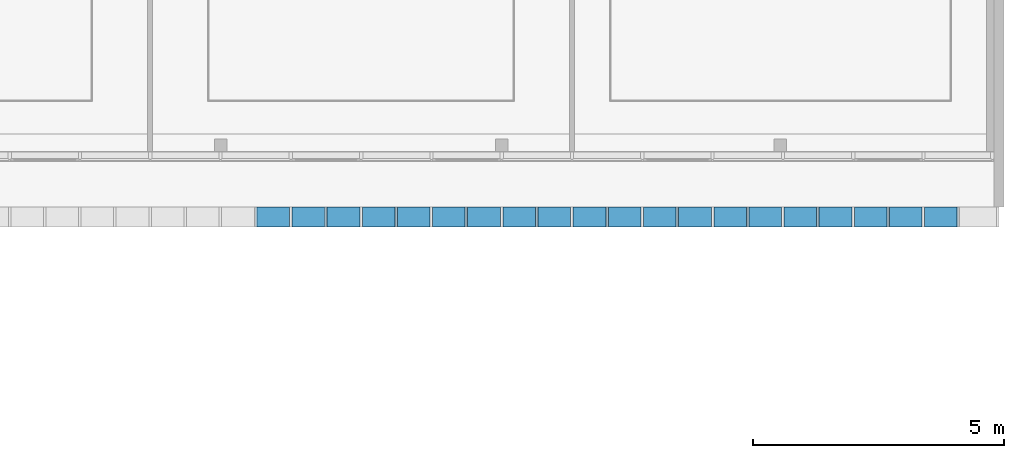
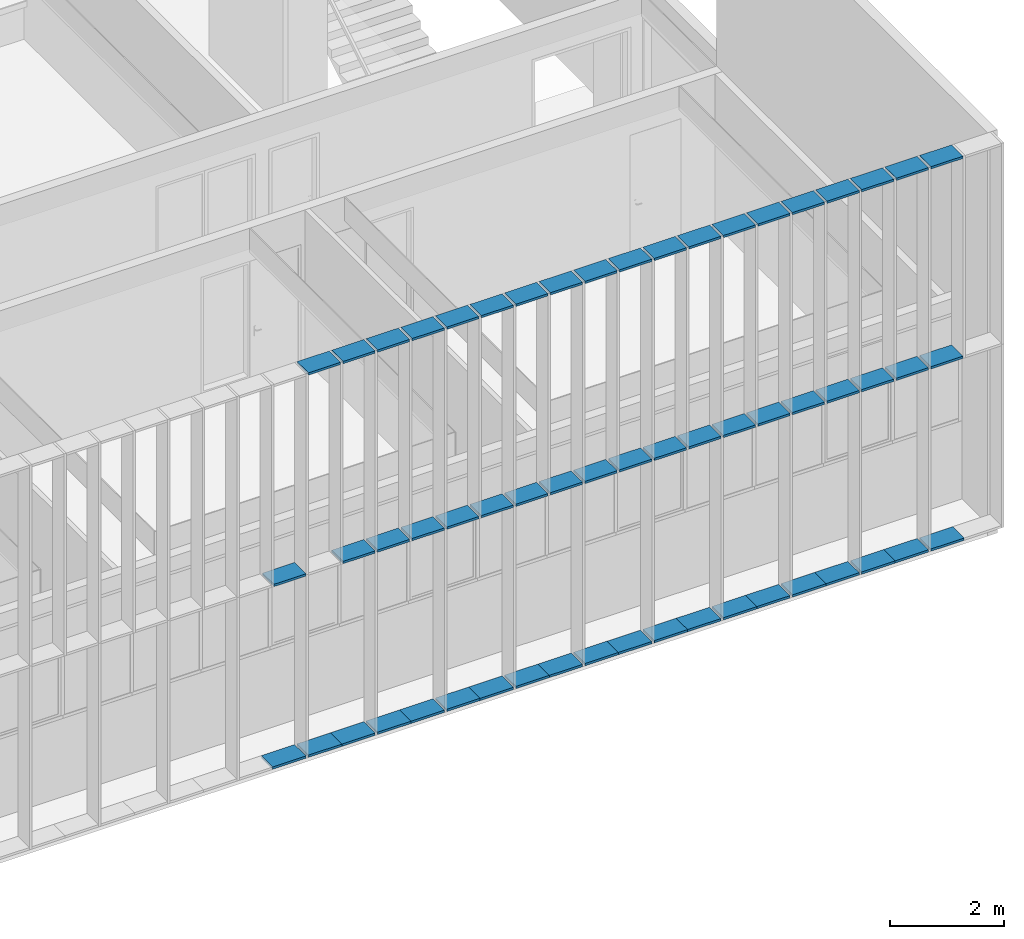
# One storey, part 25 of 106: 58 members, 1 element without a shape of its own.
"""IFC2X3 building model written with IfcOpenShell, lengths in centimetres."""

from ifc_helpers import new_model, entity, si_unit, converted_unit, derived_unit, direction, frame, origin, origin_2d_with_axis, place, context, subcontext, project, spatial, rectangle, extrude, source, transform, mapped, material, type_object, type_shapes, element, aggregate, save


model = new_model("IFC2X3")

# Units and contexts
model_context = context("Model", 3, precision=0.001, world=origin(), true_north=direction((6.12303176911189e-17, 1.0)))
body_context = subcontext(model_context, "Body", "Model", "MODEL_VIEW")
ifc_project = project(units=[si_unit("LENGTHUNIT", "METRE", prefix="CENTI"), si_unit("AREAUNIT", "SQUARE_METRE"), si_unit("VOLUMEUNIT", "CUBIC_METRE"), converted_unit("PLANEANGLEUNIT", "DEGREE", entity("IfcRatioMeasure", 0.0174532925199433), si_unit("PLANEANGLEUNIT", "RADIAN"), dimensions=[0, 0, 0, 0, 0, 0, 0]), si_unit("MASSUNIT", "GRAM", prefix="KILO"), derived_unit("MASSDENSITYUNIT", [(si_unit("MASSUNIT", "GRAM", prefix="KILO"), 1), (si_unit("LENGTHUNIT", "METRE"), -3)]), si_unit("TIMEUNIT", "SECOND"), si_unit("FREQUENCYUNIT", "HERTZ"), si_unit("THERMODYNAMICTEMPERATUREUNIT", "DEGREE_CELSIUS"), derived_unit("THERMALTRANSMITTANCEUNIT", [(si_unit("MASSUNIT", "GRAM", prefix="KILO"), 1), (si_unit("THERMODYNAMICTEMPERATUREUNIT", "KELVIN"), -1), (si_unit("TIMEUNIT", "SECOND"), -3)]), derived_unit("VOLUMETRICFLOWRATEUNIT", [(si_unit("LENGTHUNIT", "METRE"), 3), (si_unit("TIMEUNIT", "SECOND"), -1)]), si_unit("ELECTRICCURRENTUNIT", "AMPERE"), si_unit("ELECTRICVOLTAGEUNIT", "VOLT"), si_unit("POWERUNIT", "WATT"), si_unit("FORCEUNIT", "NEWTON", prefix="KILO"), si_unit("ILLUMINANCEUNIT", "LUX"), si_unit("LUMINOUSFLUXUNIT", "LUMEN"), si_unit("LUMINOUSINTENSITYUNIT", "CANDELA"), derived_unit("USERDEFINED", [(si_unit("MASSUNIT", "GRAM", prefix="KILO"), -1), (si_unit("LENGTHUNIT", "METRE"), -2), (si_unit("TIMEUNIT", "SECOND"), 3), (si_unit("LUMINOUSFLUXUNIT", "LUMEN"), 1)]), derived_unit("LINEARVELOCITYUNIT", [(si_unit("LENGTHUNIT", "METRE"), 1), (si_unit("TIMEUNIT", "SECOND"), -1)]), si_unit("PRESSUREUNIT", "PASCAL"), derived_unit("USERDEFINED", [(si_unit("LENGTHUNIT", "METRE"), -2), (si_unit("MASSUNIT", "GRAM", prefix="KILO"), 1), (si_unit("TIMEUNIT", "SECOND"), -2)])], contexts=[model_context])

# Site, building, storey
site_placement = place(None, frame((-2781.94577612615, 7442.24238424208, 0.0)))
site = spatial("IfcSite", under=ifc_project, at=site_placement, Name="Default", CompositionType="ELEMENT")
building_placement = place(site_placement, origin())
building = spatial("IfcBuilding", under=site, at=building_placement, CompositionType="ELEMENT")
storey_placement = place(building_placement, frame((0.0, 0.0, 422.0)))
storey = spatial("IfcBuildingStorey", under=building, at=storey_placement, Name="Toiture - Cuisine", CompositionType="ELEMENT", Elevation=421.999999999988)

# Curtain wall, members
curtain_wall_type = type_object("IfcCurtainWallType", Name="Mur-rideau:Epines - 400x30mm", PredefinedType="NOTDEFINED")
curtain_wall_placement = place(building_placement, origin())
curtain_wall = element("IfcCurtainWall", 1, at=curtain_wall_placement, inside=storey, type_object=curtain_wall_type, Name="Mur-rideau:Epines - 400x30mm", ObjectType="Mur-rideau:Epines - 400x30mm")
ifc_material = material(Name="Aluminium")
member_type_1 = type_object("IfcMemberType", Name="Epine sud (400x50 mm)", PredefinedType="MEMBER")
shared_shape_1 = source(origin(), body_context, "Body", "SweptSolid", [
    extrude(rectangle(XDim=40.0, YDim=5.0, at=origin_2d_with_axis()), frame((-2.5, 0.0, -65.0), z_axis=(0.0, 0.0, 1.0), x_axis=(0.0, -1.0, 0.0)), (0.0, 0.0, 1.0), 64.9999999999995),
])
type_shapes(member_type_1, [shared_shape_1])
member_1_placement = place(building_placement, frame((-1672.99987760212, -3160.31349958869, 1176.0), z_axis=(1.0, 0.0, 0.0), x_axis=(0.0, 0.0, 1.0)))
member_1 = element("IfcMember", 2, at=member_1_placement, type_object=member_type_1, material=ifc_material, Name="Meneau rectangulaire:Epine sud (400x50 mm)", ObjectType="Meneau rectangulaire:Epine sud (400x50 mm)", context=body_context, shape_type="MappedRepresentation", body=[
    mapped(shared_shape_1, transform((0.0, 0.0, 0.0), scale=1.0)),
])
member_2_placement = place(building_placement, frame((-1532.99987760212, -3160.31349958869, 1176.0), z_axis=(1.0, 0.0, 0.0), x_axis=(0.0, 0.0, 1.0)))
member_2 = element("IfcMember", 3, at=member_2_placement, type_object=member_type_1, material=ifc_material, Name="Meneau rectangulaire:Epine sud (400x50 mm)", ObjectType="Meneau rectangulaire:Epine sud (400x50 mm)", context=body_context, shape_type="MappedRepresentation", body=[
    mapped(shared_shape_1, transform((0.0, 0.0, 0.0), scale=1.0)),
])
member_3_placement = place(building_placement, frame((-1392.99987760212, -3160.31349958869, 1176.0), z_axis=(1.0, 0.0, 0.0), x_axis=(0.0, 0.0, 1.0)))
member_3 = element("IfcMember", 4, at=member_3_placement, type_object=member_type_1, material=ifc_material, Name="Meneau rectangulaire:Epine sud (400x50 mm)", ObjectType="Meneau rectangulaire:Epine sud (400x50 mm)", context=body_context, shape_type="MappedRepresentation", body=[
    mapped(shared_shape_1, transform((0.0, 0.0, 0.0), scale=1.0)),
])
member_4_placement = place(building_placement, frame((-1252.99987760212, -3160.31349958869, 1176.0), z_axis=(1.0, 0.0, 0.0), x_axis=(0.0, 0.0, 1.0)))
member_4 = element("IfcMember", 5, at=member_4_placement, type_object=member_type_1, material=ifc_material, Name="Meneau rectangulaire:Epine sud (400x50 mm)", ObjectType="Meneau rectangulaire:Epine sud (400x50 mm)", context=body_context, shape_type="MappedRepresentation", body=[
    mapped(shared_shape_1, transform((0.0, 0.0, 0.0), scale=1.0)),
])
member_5_placement = place(building_placement, frame((-1112.99987760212, -3160.31349958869, 1176.0), z_axis=(1.0, 0.0, 0.0), x_axis=(0.0, 0.0, 1.0)))
member_5 = element("IfcMember", 6, at=member_5_placement, type_object=member_type_1, material=ifc_material, Name="Meneau rectangulaire:Epine sud (400x50 mm)", ObjectType="Meneau rectangulaire:Epine sud (400x50 mm)", context=body_context, shape_type="MappedRepresentation", body=[
    mapped(shared_shape_1, transform((0.0, 0.0, 0.0), scale=1.0)),
])
member_6_placement = place(building_placement, frame((-972.999877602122, -3160.31349958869, 1176.0), z_axis=(1.0, 0.0, 0.0), x_axis=(0.0, 0.0, 1.0)))
member_6 = element("IfcMember", 7, at=member_6_placement, type_object=member_type_1, material=ifc_material, Name="Meneau rectangulaire:Epine sud (400x50 mm)", ObjectType="Meneau rectangulaire:Epine sud (400x50 mm)", context=body_context, shape_type="MappedRepresentation", body=[
    mapped(shared_shape_1, transform((0.0, 0.0, 0.0), scale=1.0)),
])
member_7_placement = place(building_placement, frame((-832.999877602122, -3160.31349958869, 1176.0), z_axis=(1.0, 0.0, 0.0), x_axis=(0.0, 0.0, 1.0)))
member_7 = element("IfcMember", 8, at=member_7_placement, type_object=member_type_1, material=ifc_material, Name="Meneau rectangulaire:Epine sud (400x50 mm)", ObjectType="Meneau rectangulaire:Epine sud (400x50 mm)", context=body_context, shape_type="MappedRepresentation", body=[
    mapped(shared_shape_1, transform((0.0, 0.0, 0.0), scale=1.0)),
])
member_8_placement = place(building_placement, frame((-692.999877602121, -3160.31349958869, 1176.0), z_axis=(1.0, 0.0, 0.0), x_axis=(0.0, 0.0, 1.0)))
member_8 = element("IfcMember", 9, at=member_8_placement, type_object=member_type_1, material=ifc_material, Name="Meneau rectangulaire:Epine sud (400x50 mm)", ObjectType="Meneau rectangulaire:Epine sud (400x50 mm)", context=body_context, shape_type="MappedRepresentation", body=[
    mapped(shared_shape_1, transform((0.0, 0.0, 0.0), scale=1.0)),
])
member_9_placement = place(building_placement, frame((-552.999877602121, -3160.31349958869, 1176.0), z_axis=(1.0, 0.0, 0.0), x_axis=(0.0, 0.0, 1.0)))
member_9 = element("IfcMember", 10, at=member_9_placement, type_object=member_type_1, material=ifc_material, Name="Meneau rectangulaire:Epine sud (400x50 mm)", ObjectType="Meneau rectangulaire:Epine sud (400x50 mm)", context=body_context, shape_type="MappedRepresentation", body=[
    mapped(shared_shape_1, transform((0.0, 0.0, 0.0), scale=1.0)),
])
member_10_placement = place(building_placement, frame((-1742.99987760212, -3160.31349958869, 1176.0), z_axis=(1.0, 0.0, 0.0), x_axis=(0.0, 0.0, 1.0)))
member_10 = element("IfcMember", 11, at=member_10_placement, type_object=member_type_1, material=ifc_material, Name="Meneau rectangulaire:Epine sud (400x50 mm)", ObjectType="Meneau rectangulaire:Epine sud (400x50 mm)", context=body_context, shape_type="MappedRepresentation", body=[
    mapped(shared_shape_1, transform((0.0, 0.0, 0.0), scale=1.0)),
])
member_11_placement = place(building_placement, frame((-1602.99987760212, -3160.31349958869, 1176.0), z_axis=(1.0, 0.0, 0.0), x_axis=(0.0, 0.0, 1.0)))
member_11 = element("IfcMember", 12, at=member_11_placement, type_object=member_type_1, material=ifc_material, Name="Meneau rectangulaire:Epine sud (400x50 mm)", ObjectType="Meneau rectangulaire:Epine sud (400x50 mm)", context=body_context, shape_type="MappedRepresentation", body=[
    mapped(shared_shape_1, transform((0.0, 0.0, 0.0), scale=1.0)),
])
member_12_placement = place(building_placement, frame((-1462.99987760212, -3160.31349958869, 1176.0), z_axis=(1.0, 0.0, 0.0), x_axis=(0.0, 0.0, 1.0)))
member_12 = element("IfcMember", 13, at=member_12_placement, type_object=member_type_1, material=ifc_material, Name="Meneau rectangulaire:Epine sud (400x50 mm)", ObjectType="Meneau rectangulaire:Epine sud (400x50 mm)", context=body_context, shape_type="MappedRepresentation", body=[
    mapped(shared_shape_1, transform((0.0, 0.0, 0.0), scale=1.0)),
])
member_13_placement = place(building_placement, frame((-1322.99987760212, -3160.31349958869, 1176.0), z_axis=(1.0, 0.0, 0.0), x_axis=(0.0, 0.0, 1.0)))
member_13 = element("IfcMember", 14, at=member_13_placement, type_object=member_type_1, material=ifc_material, Name="Meneau rectangulaire:Epine sud (400x50 mm)", ObjectType="Meneau rectangulaire:Epine sud (400x50 mm)", context=body_context, shape_type="MappedRepresentation", body=[
    mapped(shared_shape_1, transform((0.0, 0.0, 0.0), scale=1.0)),
])
member_14_placement = place(building_placement, frame((-1182.99987760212, -3160.31349958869, 1176.0), z_axis=(1.0, 0.0, 0.0), x_axis=(0.0, 0.0, 1.0)))
member_14 = element("IfcMember", 15, at=member_14_placement, type_object=member_type_1, material=ifc_material, Name="Meneau rectangulaire:Epine sud (400x50 mm)", ObjectType="Meneau rectangulaire:Epine sud (400x50 mm)", context=body_context, shape_type="MappedRepresentation", body=[
    mapped(shared_shape_1, transform((0.0, 0.0, 0.0), scale=1.0)),
])
member_15_placement = place(building_placement, frame((-1042.99987760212, -3160.31349958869, 1176.0), z_axis=(1.0, 0.0, 0.0), x_axis=(0.0, 0.0, 1.0)))
member_15 = element("IfcMember", 16, at=member_15_placement, type_object=member_type_1, material=ifc_material, Name="Meneau rectangulaire:Epine sud (400x50 mm)", ObjectType="Meneau rectangulaire:Epine sud (400x50 mm)", context=body_context, shape_type="MappedRepresentation", body=[
    mapped(shared_shape_1, transform((0.0, 0.0, 0.0), scale=1.0)),
])
member_16_placement = place(building_placement, frame((-902.999877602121, -3160.31349958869, 1176.0), z_axis=(1.0, 0.0, 0.0), x_axis=(0.0, 0.0, 1.0)))
member_16 = element("IfcMember", 17, at=member_16_placement, type_object=member_type_1, material=ifc_material, Name="Meneau rectangulaire:Epine sud (400x50 mm)", ObjectType="Meneau rectangulaire:Epine sud (400x50 mm)", context=body_context, shape_type="MappedRepresentation", body=[
    mapped(shared_shape_1, transform((0.0, 0.0, 0.0), scale=1.0)),
])
member_17_placement = place(building_placement, frame((-762.999877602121, -3160.31349958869, 1176.0), z_axis=(1.0, 0.0, 0.0), x_axis=(0.0, 0.0, 1.0)))
member_17 = element("IfcMember", 18, at=member_17_placement, type_object=member_type_1, material=ifc_material, Name="Meneau rectangulaire:Epine sud (400x50 mm)", ObjectType="Meneau rectangulaire:Epine sud (400x50 mm)", context=body_context, shape_type="MappedRepresentation", body=[
    mapped(shared_shape_1, transform((0.0, 0.0, 0.0), scale=1.0)),
])
member_18_placement = place(building_placement, frame((-622.999877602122, -3160.31349958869, 1176.0), z_axis=(1.0, 0.0, 0.0), x_axis=(0.0, 0.0, 1.0)))
member_18 = element("IfcMember", 19, at=member_18_placement, type_object=member_type_1, material=ifc_material, Name="Meneau rectangulaire:Epine sud (400x50 mm)", ObjectType="Meneau rectangulaire:Epine sud (400x50 mm)", context=body_context, shape_type="MappedRepresentation", body=[
    mapped(shared_shape_1, transform((0.0, 0.0, 0.0), scale=1.0)),
])
member_type_2 = type_object("IfcMemberType", Name="Epine sud (400x50 mm)", PredefinedType="MEMBER")
shared_shape_2 = source(origin(), body_context, "Body", "SweptSolid", [
    extrude(rectangle(XDim=40.0, YDim=5.0, at=origin_2d_with_axis()), frame((-2.5, 0.0, -67.4999999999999), z_axis=(0.0, 0.0, 1.0), x_axis=(0.0, -1.0, 0.0)), (0.0, 0.0, 1.0), 67.5000000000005),
])
type_shapes(member_type_2, [shared_shape_2])
member_19_placement = place(building_placement, frame((-1807.99987760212, -3160.31349958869, 353.0), z_axis=(-1.0, 0.0, 0.0), x_axis=(0.0, 0.0, -1.0)))
member_19 = element("IfcMember", 20, at=member_19_placement, type_object=member_type_2, material=ifc_material, Name="Meneau rectangulaire:Epine sud (400x50 mm)", ObjectType="Meneau rectangulaire:Epine sud (400x50 mm)", context=body_context, shape_type="MappedRepresentation", body=[
    mapped(shared_shape_2, transform((0.0, 0.0, 0.0), scale=1.0)),
])
member_20_placement = place(building_placement, frame((-1667.99987760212, -3160.31349958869, 353.0), z_axis=(-1.0, 0.0, 0.0), x_axis=(0.0, 0.0, -1.0)))
member_20 = element("IfcMember", 21, at=member_20_placement, type_object=member_type_2, material=ifc_material, Name="Meneau rectangulaire:Epine sud (400x50 mm)", ObjectType="Meneau rectangulaire:Epine sud (400x50 mm)", context=body_context, shape_type="MappedRepresentation", body=[
    mapped(shared_shape_2, transform((0.0, 0.0, 0.0), scale=1.0)),
])
member_21_placement = place(building_placement, frame((-1527.99987760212, -3160.31349958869, 353.0), z_axis=(-1.0, 0.0, 0.0), x_axis=(0.0, 0.0, -1.0)))
member_21 = element("IfcMember", 22, at=member_21_placement, type_object=member_type_2, material=ifc_material, Name="Meneau rectangulaire:Epine sud (400x50 mm)", ObjectType="Meneau rectangulaire:Epine sud (400x50 mm)", context=body_context, shape_type="MappedRepresentation", body=[
    mapped(shared_shape_2, transform((0.0, 0.0, 0.0), scale=1.0)),
])
member_22_placement = place(building_placement, frame((-1387.99987760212, -3160.31349958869, 353.0), z_axis=(-1.0, 0.0, 0.0), x_axis=(0.0, 0.0, -1.0)))
member_22 = element("IfcMember", 23, at=member_22_placement, type_object=member_type_2, material=ifc_material, Name="Meneau rectangulaire:Epine sud (400x50 mm)", ObjectType="Meneau rectangulaire:Epine sud (400x50 mm)", context=body_context, shape_type="MappedRepresentation", body=[
    mapped(shared_shape_2, transform((0.0, 0.0, 0.0), scale=1.0)),
])
member_23_placement = place(building_placement, frame((-1247.99987760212, -3160.31349958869, 353.0), z_axis=(-1.0, 0.0, 0.0), x_axis=(0.0, 0.0, -1.0)))
member_23 = element("IfcMember", 24, at=member_23_placement, type_object=member_type_2, material=ifc_material, Name="Meneau rectangulaire:Epine sud (400x50 mm)", ObjectType="Meneau rectangulaire:Epine sud (400x50 mm)", context=body_context, shape_type="MappedRepresentation", body=[
    mapped(shared_shape_2, transform((0.0, 0.0, 0.0), scale=1.0)),
])
member_24_placement = place(building_placement, frame((-1107.99987760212, -3160.31349958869, 353.0), z_axis=(-1.0, 0.0, 0.0), x_axis=(0.0, 0.0, -1.0)))
member_24 = element("IfcMember", 25, at=member_24_placement, type_object=member_type_2, material=ifc_material, Name="Meneau rectangulaire:Epine sud (400x50 mm)", ObjectType="Meneau rectangulaire:Epine sud (400x50 mm)", context=body_context, shape_type="MappedRepresentation", body=[
    mapped(shared_shape_2, transform((0.0, 0.0, 0.0), scale=1.0)),
])
member_25_placement = place(building_placement, frame((-967.999877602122, -3160.31349958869, 353.0), z_axis=(-1.0, 0.0, 0.0), x_axis=(0.0, 0.0, -1.0)))
member_25 = element("IfcMember", 26, at=member_25_placement, type_object=member_type_2, material=ifc_material, Name="Meneau rectangulaire:Epine sud (400x50 mm)", ObjectType="Meneau rectangulaire:Epine sud (400x50 mm)", context=body_context, shape_type="MappedRepresentation", body=[
    mapped(shared_shape_2, transform((0.0, 0.0, 0.0), scale=1.0)),
])
member_26_placement = place(building_placement, frame((-827.999877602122, -3160.31349958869, 353.0), z_axis=(-1.0, 0.0, 0.0), x_axis=(0.0, 0.0, -1.0)))
member_26 = element("IfcMember", 27, at=member_26_placement, type_object=member_type_2, material=ifc_material, Name="Meneau rectangulaire:Epine sud (400x50 mm)", ObjectType="Meneau rectangulaire:Epine sud (400x50 mm)", context=body_context, shape_type="MappedRepresentation", body=[
    mapped(shared_shape_2, transform((0.0, 0.0, 0.0), scale=1.0)),
])
member_27_placement = place(building_placement, frame((-687.999877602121, -3160.31349958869, 353.0), z_axis=(-1.0, 0.0, 0.0), x_axis=(0.0, 0.0, -1.0)))
member_27 = element("IfcMember", 28, at=member_27_placement, type_object=member_type_2, material=ifc_material, Name="Meneau rectangulaire:Epine sud (400x50 mm)", ObjectType="Meneau rectangulaire:Epine sud (400x50 mm)", context=body_context, shape_type="MappedRepresentation", body=[
    mapped(shared_shape_2, transform((0.0, 0.0, 0.0), scale=1.0)),
])
member_type_3 = type_object("IfcMemberType", Name="Epine sud (400x50 mm)", PredefinedType="MEMBER")
shared_shape_3 = source(origin(), body_context, "Body", "SweptSolid", [
    extrude(rectangle(XDim=40.0, YDim=5.0, at=origin_2d_with_axis()), frame((0.0, 0.0, -65.0), z_axis=(0.0, 0.0, 1.0), x_axis=(0.0, -1.0, 0.0)), (0.0, 0.0, 1.0), 65.0000000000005),
])
type_shapes(member_type_3, [shared_shape_3])
member_28_placement = place(building_placement, frame((-1602.99987760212, -3160.31349958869, 745.5), z_axis=(1.0, 0.0, 0.0), x_axis=(0.0, 0.0, 1.0)))
member_28 = element("IfcMember", 29, at=member_28_placement, type_object=member_type_3, material=ifc_material, Name="Meneau rectangulaire:Epine sud (400x50 mm)", ObjectType="Meneau rectangulaire:Epine sud (400x50 mm)", context=body_context, shape_type="MappedRepresentation", body=[
    mapped(shared_shape_3, transform((0.0, 0.0, 0.0), scale=1.0)),
])
member_29_placement = place(building_placement, frame((-1462.99987760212, -3160.31349958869, 745.5), z_axis=(1.0, 0.0, 0.0), x_axis=(0.0, 0.0, 1.0)))
member_29 = element("IfcMember", 30, at=member_29_placement, type_object=member_type_3, material=ifc_material, Name="Meneau rectangulaire:Epine sud (400x50 mm)", ObjectType="Meneau rectangulaire:Epine sud (400x50 mm)", context=body_context, shape_type="MappedRepresentation", body=[
    mapped(shared_shape_3, transform((0.0, 0.0, 0.0), scale=1.0)),
])
member_30_placement = place(building_placement, frame((-1322.99987760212, -3160.31349958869, 745.5), z_axis=(1.0, 0.0, 0.0), x_axis=(0.0, 0.0, 1.0)))
member_30 = element("IfcMember", 31, at=member_30_placement, type_object=member_type_3, material=ifc_material, Name="Meneau rectangulaire:Epine sud (400x50 mm)", ObjectType="Meneau rectangulaire:Epine sud (400x50 mm)", context=body_context, shape_type="MappedRepresentation", body=[
    mapped(shared_shape_3, transform((0.0, 0.0, 0.0), scale=1.0)),
])
member_31_placement = place(building_placement, frame((-1182.99987760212, -3160.31349958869, 745.5), z_axis=(1.0, 0.0, 0.0), x_axis=(0.0, 0.0, 1.0)))
member_31 = element("IfcMember", 32, at=member_31_placement, type_object=member_type_3, material=ifc_material, Name="Meneau rectangulaire:Epine sud (400x50 mm)", ObjectType="Meneau rectangulaire:Epine sud (400x50 mm)", context=body_context, shape_type="MappedRepresentation", body=[
    mapped(shared_shape_3, transform((0.0, 0.0, 0.0), scale=1.0)),
])
member_32_placement = place(building_placement, frame((-1042.99987760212, -3160.31349958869, 745.5), z_axis=(1.0, 0.0, 0.0), x_axis=(0.0, 0.0, 1.0)))
member_32 = element("IfcMember", 33, at=member_32_placement, type_object=member_type_3, material=ifc_material, Name="Meneau rectangulaire:Epine sud (400x50 mm)", ObjectType="Meneau rectangulaire:Epine sud (400x50 mm)", context=body_context, shape_type="MappedRepresentation", body=[
    mapped(shared_shape_3, transform((0.0, 0.0, 0.0), scale=1.0)),
])
member_33_placement = place(building_placement, frame((-902.999877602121, -3160.31349958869, 745.5), z_axis=(1.0, 0.0, 0.0), x_axis=(0.0, 0.0, 1.0)))
member_33 = element("IfcMember", 34, at=member_33_placement, type_object=member_type_3, material=ifc_material, Name="Meneau rectangulaire:Epine sud (400x50 mm)", ObjectType="Meneau rectangulaire:Epine sud (400x50 mm)", context=body_context, shape_type="MappedRepresentation", body=[
    mapped(shared_shape_3, transform((0.0, 0.0, 0.0), scale=1.0)),
])
member_34_placement = place(building_placement, frame((-762.999877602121, -3160.31349958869, 745.5), z_axis=(1.0, 0.0, 0.0), x_axis=(0.0, 0.0, 1.0)))
member_34 = element("IfcMember", 35, at=member_34_placement, type_object=member_type_3, material=ifc_material, Name="Meneau rectangulaire:Epine sud (400x50 mm)", ObjectType="Meneau rectangulaire:Epine sud (400x50 mm)", context=body_context, shape_type="MappedRepresentation", body=[
    mapped(shared_shape_3, transform((0.0, 0.0, 0.0), scale=1.0)),
])
member_35_placement = place(building_placement, frame((-622.999877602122, -3160.31349958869, 745.5), z_axis=(1.0, 0.0, 0.0), x_axis=(0.0, 0.0, 1.0)))
member_35 = element("IfcMember", 36, at=member_35_placement, type_object=member_type_3, material=ifc_material, Name="Meneau rectangulaire:Epine sud (400x50 mm)", ObjectType="Meneau rectangulaire:Epine sud (400x50 mm)", context=body_context, shape_type="MappedRepresentation", body=[
    mapped(shared_shape_3, transform((0.0, 0.0, 0.0), scale=1.0)),
])
member_36_placement = place(building_placement, frame((-1812.99987760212, -3160.31349958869, 745.5), z_axis=(1.0, 0.0, 0.0), x_axis=(0.0, 0.0, 1.0)))
member_36 = element("IfcMember", 37, at=member_36_placement, type_object=member_type_3, material=ifc_material, Name="Meneau rectangulaire:Epine sud (400x50 mm)", ObjectType="Meneau rectangulaire:Epine sud (400x50 mm)", context=body_context, shape_type="MappedRepresentation", body=[
    mapped(shared_shape_3, transform((0.0, 0.0, 0.0), scale=1.0)),
])
member_37_placement = place(building_placement, frame((-1672.99987760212, -3160.31349958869, 745.5), z_axis=(1.0, 0.0, 0.0), x_axis=(0.0, 0.0, 1.0)))
member_37 = element("IfcMember", 38, at=member_37_placement, type_object=member_type_3, material=ifc_material, Name="Meneau rectangulaire:Epine sud (400x50 mm)", ObjectType="Meneau rectangulaire:Epine sud (400x50 mm)", context=body_context, shape_type="MappedRepresentation", body=[
    mapped(shared_shape_3, transform((0.0, 0.0, 0.0), scale=1.0)),
])
member_38_placement = place(building_placement, frame((-1532.99987760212, -3160.31349958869, 745.5), z_axis=(1.0, 0.0, 0.0), x_axis=(0.0, 0.0, 1.0)))
member_38 = element("IfcMember", 39, at=member_38_placement, type_object=member_type_3, material=ifc_material, Name="Meneau rectangulaire:Epine sud (400x50 mm)", ObjectType="Meneau rectangulaire:Epine sud (400x50 mm)", context=body_context, shape_type="MappedRepresentation", body=[
    mapped(shared_shape_3, transform((0.0, 0.0, 0.0), scale=1.0)),
])
member_39_placement = place(building_placement, frame((-1392.99987760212, -3160.31349958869, 745.5), z_axis=(1.0, 0.0, 0.0), x_axis=(0.0, 0.0, 1.0)))
member_39 = element("IfcMember", 40, at=member_39_placement, type_object=member_type_3, material=ifc_material, Name="Meneau rectangulaire:Epine sud (400x50 mm)", ObjectType="Meneau rectangulaire:Epine sud (400x50 mm)", context=body_context, shape_type="MappedRepresentation", body=[
    mapped(shared_shape_3, transform((0.0, 0.0, 0.0), scale=1.0)),
])
member_40_placement = place(building_placement, frame((-1252.99987760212, -3160.31349958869, 745.5), z_axis=(1.0, 0.0, 0.0), x_axis=(0.0, 0.0, 1.0)))
member_40 = element("IfcMember", 41, at=member_40_placement, type_object=member_type_3, material=ifc_material, Name="Meneau rectangulaire:Epine sud (400x50 mm)", ObjectType="Meneau rectangulaire:Epine sud (400x50 mm)", context=body_context, shape_type="MappedRepresentation", body=[
    mapped(shared_shape_3, transform((0.0, 0.0, 0.0), scale=1.0)),
])
member_41_placement = place(building_placement, frame((-1112.99987760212, -3160.31349958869, 745.5), z_axis=(1.0, 0.0, 0.0), x_axis=(0.0, 0.0, 1.0)))
member_41 = element("IfcMember", 42, at=member_41_placement, type_object=member_type_3, material=ifc_material, Name="Meneau rectangulaire:Epine sud (400x50 mm)", ObjectType="Meneau rectangulaire:Epine sud (400x50 mm)", context=body_context, shape_type="MappedRepresentation", body=[
    mapped(shared_shape_3, transform((0.0, 0.0, 0.0), scale=1.0)),
])
member_42_placement = place(building_placement, frame((-972.999877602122, -3160.31349958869, 745.5), z_axis=(1.0, 0.0, 0.0), x_axis=(0.0, 0.0, 1.0)))
member_42 = element("IfcMember", 43, at=member_42_placement, type_object=member_type_3, material=ifc_material, Name="Meneau rectangulaire:Epine sud (400x50 mm)", ObjectType="Meneau rectangulaire:Epine sud (400x50 mm)", context=body_context, shape_type="MappedRepresentation", body=[
    mapped(shared_shape_3, transform((0.0, 0.0, 0.0), scale=1.0)),
])
member_43_placement = place(building_placement, frame((-832.999877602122, -3160.31349958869, 745.5), z_axis=(1.0, 0.0, 0.0), x_axis=(0.0, 0.0, 1.0)))
member_43 = element("IfcMember", 44, at=member_43_placement, type_object=member_type_3, material=ifc_material, Name="Meneau rectangulaire:Epine sud (400x50 mm)", ObjectType="Meneau rectangulaire:Epine sud (400x50 mm)", context=body_context, shape_type="MappedRepresentation", body=[
    mapped(shared_shape_3, transform((0.0, 0.0, 0.0), scale=1.0)),
])
member_44_placement = place(building_placement, frame((-692.999877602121, -3160.31349958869, 745.5), z_axis=(1.0, 0.0, 0.0), x_axis=(0.0, 0.0, 1.0)))
member_44 = element("IfcMember", 45, at=member_44_placement, type_object=member_type_3, material=ifc_material, Name="Meneau rectangulaire:Epine sud (400x50 mm)", ObjectType="Meneau rectangulaire:Epine sud (400x50 mm)", context=body_context, shape_type="MappedRepresentation", body=[
    mapped(shared_shape_3, transform((0.0, 0.0, 0.0), scale=1.0)),
])
member_45_placement = place(building_placement, frame((-552.99987760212, -3160.31349958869, 745.5), z_axis=(1.0, 0.0, 0.0), x_axis=(0.0, 0.0, 1.0)))
member_45 = element("IfcMember", 46, at=member_45_placement, type_object=member_type_3, material=ifc_material, Name="Meneau rectangulaire:Epine sud (400x50 mm)", ObjectType="Meneau rectangulaire:Epine sud (400x50 mm)", context=body_context, shape_type="MappedRepresentation", body=[
    mapped(shared_shape_3, transform((0.0, 0.0, 0.0), scale=1.0)),
])
member_type_4 = type_object("IfcMemberType", Name="Epine sud (400x50 mm)", PredefinedType="MEMBER")
shared_shape_4 = source(origin(), body_context, "Body", "SweptSolid", [
    extrude(rectangle(XDim=40.0, YDim=5.0, at=origin_2d_with_axis()), frame((-2.5, 0.0, -67.2499973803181), z_axis=(0.0, 0.0, 1.0), x_axis=(0.0, -1.0, 0.0)), (0.0, 0.0, 1.0), 67.2499973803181),
])
type_shapes(member_type_4, [shared_shape_4])
member_46_placement = place(building_placement, frame((-547.99987760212, -3160.31349958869, 353.0), z_axis=(-1.0, 0.0, 0.0), x_axis=(0.0, 0.0, -1.0)))
member_46 = element("IfcMember", 47, at=member_46_placement, type_object=member_type_4, material=ifc_material, Name="Meneau rectangulaire:Epine sud (400x50 mm)", ObjectType="Meneau rectangulaire:Epine sud (400x50 mm)", context=body_context, shape_type="MappedRepresentation", body=[
    mapped(shared_shape_4, transform((0.0, 0.0, 0.0), scale=1.0)),
])
member_type_5 = type_object("IfcMemberType", Name="Epine sud (400x50 mm)", PredefinedType="MEMBER")
shared_shape_5 = source(origin(), body_context, "Body", "SweptSolid", [
    extrude(rectangle(XDim=40.0, YDim=5.0, at=origin_2d_with_axis()), frame((0.0, 0.0, -64.7499973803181), z_axis=(0.0, 0.0, 1.0), x_axis=(0.0, -1.0, 0.0)), (0.0, 0.0, 1.0), 64.7499973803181),
])
type_shapes(member_type_5, [shared_shape_5])
member_47_placement = place(building_placement, frame((-483.249880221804, -3160.31349958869, 745.5), z_axis=(1.0, 0.0, 0.0), x_axis=(0.0, 0.0, 1.0)))
member_47 = element("IfcMember", 48, at=member_47_placement, type_object=member_type_5, material=ifc_material, Name="Meneau rectangulaire:Epine sud (400x50 mm)", ObjectType="Meneau rectangulaire:Epine sud (400x50 mm)", context=body_context, shape_type="MappedRepresentation", body=[
    mapped(shared_shape_5, transform((0.0, 0.0, 0.0), scale=1.0)),
])
member_type_6 = type_object("IfcMemberType", Name="Epine sud (400x50 mm)", PredefinedType="MEMBER")
shared_shape_6 = source(origin(), body_context, "Body", "SweptSolid", [
    extrude(rectangle(XDim=40.0, YDim=5.0, at=origin_2d_with_axis()), frame((-2.5, 0.0, -67.4999999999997), z_axis=(0.0, 0.0, 1.0), x_axis=(0.0, -1.0, 0.0)), (0.0, 0.0, 1.0), 67.4999999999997),
])
type_shapes(member_type_6, [shared_shape_6])
member_48_placement = place(building_placement, frame((-1880.49987760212, -3160.31349958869, 353.0), z_axis=(-1.0, 0.0, 0.0), x_axis=(0.0, 0.0, -1.0)))
member_48 = element("IfcMember", 49, at=member_48_placement, type_object=member_type_6, material=ifc_material, Name="Meneau rectangulaire:Epine sud (400x50 mm)", ObjectType="Meneau rectangulaire:Epine sud (400x50 mm)", context=body_context, shape_type="MappedRepresentation", body=[
    mapped(shared_shape_6, transform((0.0, 0.0, 0.0), scale=1.0)),
])
member_49_placement = place(building_placement, frame((-1740.49987760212, -3160.31349958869, 353.0), z_axis=(-1.0, 0.0, 0.0), x_axis=(0.0, 0.0, -1.0)))
member_49 = element("IfcMember", 50, at=member_49_placement, type_object=member_type_6, material=ifc_material, Name="Meneau rectangulaire:Epine sud (400x50 mm)", ObjectType="Meneau rectangulaire:Epine sud (400x50 mm)", context=body_context, shape_type="MappedRepresentation", body=[
    mapped(shared_shape_6, transform((0.0, 0.0, 0.0), scale=1.0)),
])
member_50_placement = place(building_placement, frame((-1600.49987760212, -3160.31349958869, 353.0), z_axis=(-1.0, 0.0, 0.0), x_axis=(0.0, 0.0, -1.0)))
member_50 = element("IfcMember", 51, at=member_50_placement, type_object=member_type_6, material=ifc_material, Name="Meneau rectangulaire:Epine sud (400x50 mm)", ObjectType="Meneau rectangulaire:Epine sud (400x50 mm)", context=body_context, shape_type="MappedRepresentation", body=[
    mapped(shared_shape_6, transform((0.0, 0.0, 0.0), scale=1.0)),
])
member_51_placement = place(building_placement, frame((-1460.49987760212, -3160.31349958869, 353.0), z_axis=(-1.0, 0.0, 0.0), x_axis=(0.0, 0.0, -1.0)))
member_51 = element("IfcMember", 52, at=member_51_placement, type_object=member_type_6, material=ifc_material, Name="Meneau rectangulaire:Epine sud (400x50 mm)", ObjectType="Meneau rectangulaire:Epine sud (400x50 mm)", context=body_context, shape_type="MappedRepresentation", body=[
    mapped(shared_shape_6, transform((0.0, 0.0, 0.0), scale=1.0)),
])
member_52_placement = place(building_placement, frame((-1320.49987760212, -3160.31349958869, 353.0), z_axis=(-1.0, 0.0, 0.0), x_axis=(0.0, 0.0, -1.0)))
member_52 = element("IfcMember", 53, at=member_52_placement, type_object=member_type_6, material=ifc_material, Name="Meneau rectangulaire:Epine sud (400x50 mm)", ObjectType="Meneau rectangulaire:Epine sud (400x50 mm)", context=body_context, shape_type="MappedRepresentation", body=[
    mapped(shared_shape_6, transform((0.0, 0.0, 0.0), scale=1.0)),
])
member_53_placement = place(building_placement, frame((-1180.49987760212, -3160.31349958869, 353.0), z_axis=(-1.0, 0.0, 0.0), x_axis=(0.0, 0.0, -1.0)))
member_53 = element("IfcMember", 54, at=member_53_placement, type_object=member_type_6, material=ifc_material, Name="Meneau rectangulaire:Epine sud (400x50 mm)", ObjectType="Meneau rectangulaire:Epine sud (400x50 mm)", context=body_context, shape_type="MappedRepresentation", body=[
    mapped(shared_shape_6, transform((0.0, 0.0, 0.0), scale=1.0)),
])
member_54_placement = place(building_placement, frame((-1040.49987760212, -3160.31349958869, 353.0), z_axis=(-1.0, 0.0, 0.0), x_axis=(0.0, 0.0, -1.0)))
member_54 = element("IfcMember", 55, at=member_54_placement, type_object=member_type_6, material=ifc_material, Name="Meneau rectangulaire:Epine sud (400x50 mm)", ObjectType="Meneau rectangulaire:Epine sud (400x50 mm)", context=body_context, shape_type="MappedRepresentation", body=[
    mapped(shared_shape_6, transform((0.0, 0.0, 0.0), scale=1.0)),
])
member_55_placement = place(building_placement, frame((-900.499877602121, -3160.31349958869, 353.0), z_axis=(-1.0, 0.0, 0.0), x_axis=(0.0, 0.0, -1.0)))
member_55 = element("IfcMember", 56, at=member_55_placement, type_object=member_type_6, material=ifc_material, Name="Meneau rectangulaire:Epine sud (400x50 mm)", ObjectType="Meneau rectangulaire:Epine sud (400x50 mm)", context=body_context, shape_type="MappedRepresentation", body=[
    mapped(shared_shape_6, transform((0.0, 0.0, 0.0), scale=1.0)),
])
member_56_placement = place(building_placement, frame((-760.499877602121, -3160.31349958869, 353.0), z_axis=(-1.0, 0.0, 0.0), x_axis=(0.0, 0.0, -1.0)))
member_56 = element("IfcMember", 57, at=member_56_placement, type_object=member_type_6, material=ifc_material, Name="Meneau rectangulaire:Epine sud (400x50 mm)", ObjectType="Meneau rectangulaire:Epine sud (400x50 mm)", context=body_context, shape_type="MappedRepresentation", body=[
    mapped(shared_shape_6, transform((0.0, 0.0, 0.0), scale=1.0)),
])
member_57_placement = place(building_placement, frame((-620.499877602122, -3160.31349958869, 353.0), z_axis=(-1.0, 0.0, 0.0), x_axis=(0.0, 0.0, -1.0)))
member_57 = element("IfcMember", 58, at=member_57_placement, type_object=member_type_6, material=ifc_material, Name="Meneau rectangulaire:Epine sud (400x50 mm)", ObjectType="Meneau rectangulaire:Epine sud (400x50 mm)", context=body_context, shape_type="MappedRepresentation", body=[
    mapped(shared_shape_6, transform((0.0, 0.0, 0.0), scale=1.0)),
])
member_type_7 = type_object("IfcMemberType", Name="Epine sud (400x50 mm)", PredefinedType="MEMBER")
shared_shape_7 = source(origin(), body_context, "Body", "SweptSolid", [
    extrude(rectangle(XDim=40.0, YDim=5.0, at=origin_2d_with_axis()), frame((-2.5, 0.0, -64.7499973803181), z_axis=(0.0, 0.0, 1.0), x_axis=(0.0, -1.0, 0.0)), (0.0, 0.0, 1.0), 64.7499973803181),
])
type_shapes(member_type_7, [shared_shape_7])
member_58_placement = place(building_placement, frame((-483.249880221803, -3160.31349958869, 1176.0), z_axis=(1.0, 0.0, 0.0), x_axis=(0.0, 0.0, 1.0)))
member_58 = element("IfcMember", 59, at=member_58_placement, type_object=member_type_7, material=ifc_material, Name="Meneau rectangulaire:Epine sud (400x50 mm)", ObjectType="Meneau rectangulaire:Epine sud (400x50 mm)", context=body_context, shape_type="MappedRepresentation", body=[
    mapped(shared_shape_7, transform((0.0, 0.0, 0.0), scale=1.0)),
])
aggregate(curtain_wall, [member_19, member_1, member_20, member_28, member_2, member_21, member_29, member_3, member_22, member_30, member_4, member_23, member_31, member_5, member_24, member_32, member_6, member_25, member_33, member_7, member_26, member_34, member_8, member_27, member_35, member_9, member_46, member_47, member_48, member_36, member_10, member_49, member_37, member_11, member_50, member_38, member_12, member_51, member_39, member_13, member_52, member_40, member_14, member_53, member_41, member_15, member_54, member_42, member_16, member_55, member_43, member_17, member_56, member_44, member_18, member_57, member_45, member_58])

save(model, "model.ifc")
